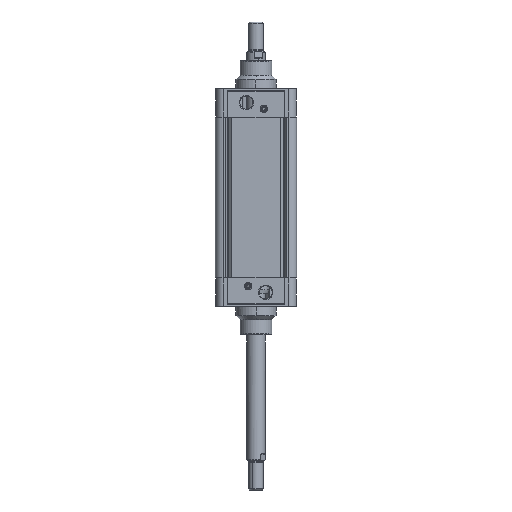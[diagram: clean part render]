
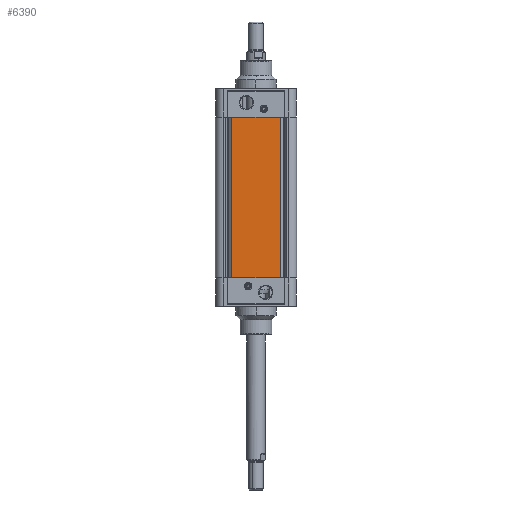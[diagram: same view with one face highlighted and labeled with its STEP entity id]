
A CAD part, front view. The second image highlights one B-rep face of the part: STEP entity #6390.
In plain terms, the highlighted planar face has unit normal (0, -1, 0).
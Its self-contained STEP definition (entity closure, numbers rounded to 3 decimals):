
#23 = EDGE_CURVE ( 'NONE', #17428, #13983, #9709, .T. ) ;
#896 = ORIENTED_EDGE ( 'NONE', *, *, #21970, .F. ) ;
#6390 = ADVANCED_FACE ( 'NONE', ( #23066 ), #15388, .F. ) ;
#9137 = DIRECTION ( 'NONE',  ( 0., 0., -1. ) ) ;
#9709 = LINE ( 'NONE', #23956, #16108 ) ;
#11848 = LINE ( 'NONE', #15505, #23916 ) ;
#12778 = VERTEX_POINT ( 'NONE', #23973 ) ;
#13312 = VECTOR ( 'NONE', #9137, 1000. ) ;
#13462 = EDGE_LOOP ( 'NONE', ( #17050, #896, #14716, #19210 ) ) ;
#13983 = VERTEX_POINT ( 'NONE', #15436 ) ;
#14083 = LINE ( 'NONE', #28265, #13312 ) ;
#14716 = ORIENTED_EDGE ( 'NONE', *, *, #25712, .F. ) ;
#14906 = CARTESIAN_POINT ( 'NONE',  ( 22.05, -111., 0. ) ) ;
#15388 = PLANE ( 'NONE',  #20647 ) ;
#15436 = CARTESIAN_POINT ( 'NONE',  ( 22.05, -111., 220. ) ) ;
#15505 = CARTESIAN_POINT ( 'NONE',  ( 55.5, -111., 220. ) ) ;
#15532 = DIRECTION ( 'NONE',  ( 0., 1., 0. ) ) ;
#15554 = DIRECTION ( 'NONE',  ( 0., 0., 1. ) ) ;
#15575 = DIRECTION ( 'NONE',  ( 1., 0., 0. ) ) ;
#16108 = VECTOR ( 'NONE', #28802, 1000. ) ;
#16711 = CARTESIAN_POINT ( 'NONE',  ( 55.5, -111., 0. ) ) ;
#16804 = DIRECTION ( 'NONE',  ( -1., 0., 0. ) ) ;
#17050 = ORIENTED_EDGE ( 'NONE', *, *, #23, .F. ) ;
#17428 = VERTEX_POINT ( 'NONE', #30251 ) ;
#18241 = EDGE_CURVE ( 'NONE', #13983, #12778, #11848, .T. ) ;
#19210 = ORIENTED_EDGE ( 'NONE', *, *, #18241, .F. ) ;
#20647 = AXIS2_PLACEMENT_3D ( 'NONE', #14906, #15532, #15554 ) ;
#21970 = EDGE_CURVE ( 'NONE', #22779, #17428, #28556, .T. ) ;
#22779 = VERTEX_POINT ( 'NONE', #28950 ) ;
#23066 = FACE_OUTER_BOUND ( 'NONE', #13462, .T. ) ;
#23916 = VECTOR ( 'NONE', #15575, 1000. ) ;
#23956 = CARTESIAN_POINT ( 'NONE',  ( 22.05, -111., 110. ) ) ;
#23973 = CARTESIAN_POINT ( 'NONE',  ( 88.95, -111., 220. ) ) ;
#25524 = VECTOR ( 'NONE', #16804, 1000. ) ;
#25712 = EDGE_CURVE ( 'NONE', #12778, #22779, #14083, .T. ) ;
#28265 = CARTESIAN_POINT ( 'NONE',  ( 88.95, -111., 110. ) ) ;
#28556 = LINE ( 'NONE', #16711, #25524 ) ;
#28802 = DIRECTION ( 'NONE',  ( 0., 0., 1. ) ) ;
#28950 = CARTESIAN_POINT ( 'NONE',  ( 88.95, -111., 0. ) ) ;
#30251 = CARTESIAN_POINT ( 'NONE',  ( 22.05, -111., 0. ) ) ;
